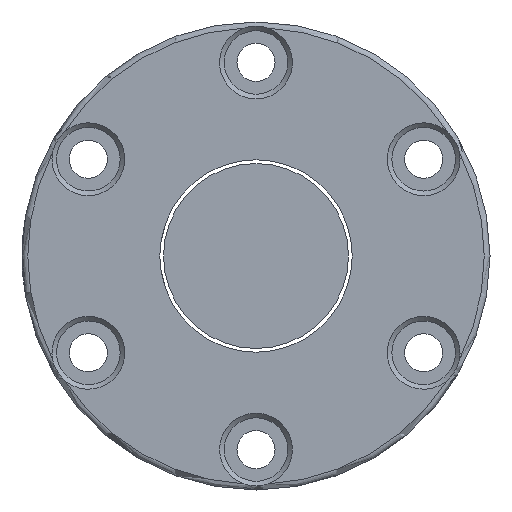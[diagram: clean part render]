
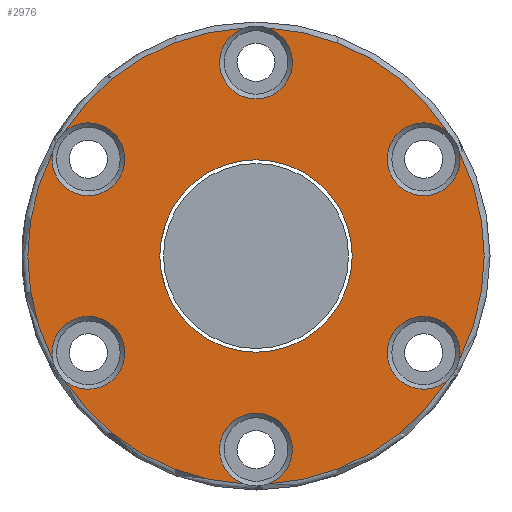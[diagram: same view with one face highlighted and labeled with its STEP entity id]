
A CAD part, left-side view. The second image highlights one B-rep face of the part: STEP entity #2976.
In plain terms, the highlighted planar face has unit normal (-1, 0, 0).
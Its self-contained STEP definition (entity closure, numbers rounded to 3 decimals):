
#3 = EDGE_CURVE ( 'NONE', #83, #2428, #304, .T. ) ;
#11 = ORIENTED_EDGE ( 'NONE', *, *, #486, .T. ) ;
#19 = CIRCLE ( 'NONE', #124, 39.5 ) ;
#24 = CIRCLE ( 'NONE', #1712, 39.5 ) ;
#29 = CARTESIAN_POINT ( 'NONE',  ( -50., -2.085, -39.445 ) ) ;
#47 = VERTEX_POINT ( 'NONE', #2382 ) ;
#48 = VERTEX_POINT ( 'NONE', #1432 ) ;
#60 = CARTESIAN_POINT ( 'NONE',  ( -50., 33.118, -21.528 ) ) ;
#63 = VERTEX_POINT ( 'NONE', #330 ) ;
#83 = VERTEX_POINT ( 'NONE', #2782 ) ;
#124 = AXIS2_PLACEMENT_3D ( 'NONE', #701, #2291, #1803 ) ;
#132 = VERTEX_POINT ( 'NONE', #2311 ) ;
#139 = CARTESIAN_POINT ( 'NONE',  ( -50., 2.085, 39.445 ) ) ;
#166 = VERTEX_POINT ( 'NONE', #409 ) ;
#177 = CIRCLE ( 'NONE', #2677, 16.65 ) ;
#215 = ORIENTED_EDGE ( 'NONE', *, *, #1013, .T. ) ;
#219 = AXIS2_PLACEMENT_3D ( 'NONE', #1515, #427, #2448 ) ;
#234 = EDGE_LOOP ( 'NONE', ( #2367 ) ) ;
#275 = ORIENTED_EDGE ( 'NONE', *, *, #2570, .T. ) ;
#290 = DIRECTION ( 'NONE',  ( 0., 0., 1. ) ) ;
#304 = CIRCLE ( 'NONE', #1973, 6.3 ) ;
#330 = CARTESIAN_POINT ( 'NONE',  ( -50., -35.203, -17.917 ) ) ;
#339 = DIRECTION ( 'NONE',  ( 0., 0., 1. ) ) ;
#348 = FACE_OUTER_BOUND ( 'NONE', #1664, .T. ) ;
#364 = AXIS2_PLACEMENT_3D ( 'NONE', #726, #1214, #290 ) ;
#383 = DIRECTION ( 'NONE',  ( -1., 0., 0. ) ) ;
#409 = CARTESIAN_POINT ( 'NONE',  ( -50., 0., -16.65 ) ) ;
#427 = DIRECTION ( 'NONE',  ( -1., 0., 0. ) ) ;
#440 = EDGE_CURVE ( 'NONE', #1249, #63, #1334, .T. ) ;
#480 = DIRECTION ( 'NONE',  ( -1., 0., 0. ) ) ;
#486 = EDGE_CURVE ( 'NONE', #1539, #83, #1886, .T. ) ;
#492 = AXIS2_PLACEMENT_3D ( 'NONE', #514, #480, #1165 ) ;
#514 = CARTESIAN_POINT ( 'NONE',  ( -50., 0., 0. ) ) ;
#538 = DIRECTION ( 'NONE',  ( 1., 0., 0. ) ) ;
#571 = DIRECTION ( 'NONE',  ( 0., 0., 1. ) ) ;
#583 = DIRECTION ( 'NONE',  ( 0., 0., 1. ) ) ;
#606 = AXIS2_PLACEMENT_3D ( 'NONE', #1082, #1920, #339 ) ;
#630 = DIRECTION ( 'NONE',  ( 0., 0., 1. ) ) ;
#651 = CARTESIAN_POINT ( 'NONE',  ( -50., -33.118, 21.528 ) ) ;
#694 = CARTESIAN_POINT ( 'NONE',  ( -50., 0., 0. ) ) ;
#701 = CARTESIAN_POINT ( 'NONE',  ( -50., 0., 0. ) ) ;
#714 = DIRECTION ( 'NONE',  ( 0., 0., 1. ) ) ;
#726 = CARTESIAN_POINT ( 'NONE',  ( -50., 0., 0. ) ) ;
#755 = AXIS2_PLACEMENT_3D ( 'NONE', #1993, #1769, #630 ) ;
#778 = DIRECTION ( 'NONE',  ( 0., 0., 1. ) ) ;
#807 = ORIENTED_EDGE ( 'NONE', *, *, #1269, .T. ) ;
#840 = EDGE_CURVE ( 'NONE', #132, #1539, #2623, .T. ) ;
#851 = CIRCLE ( 'NONE', #606, 6.3 ) ;
#887 = AXIS2_PLACEMENT_3D ( 'NONE', #1043, #1685, #571 ) ;
#1006 = ORIENTED_EDGE ( 'NONE', *, *, #3, .T. ) ;
#1013 = EDGE_CURVE ( 'NONE', #1314, #48, #19, .T. ) ;
#1043 = CARTESIAN_POINT ( 'NONE',  ( -50., 29.012, -16.75 ) ) ;
#1082 = CARTESIAN_POINT ( 'NONE',  ( -50., -29.012, 16.75 ) ) ;
#1083 = DIRECTION ( 'NONE',  ( 0., 0., 1. ) ) ;
#1140 = AXIS2_PLACEMENT_3D ( 'NONE', #2610, #1717, #2803 ) ;
#1143 = CARTESIAN_POINT ( 'NONE',  ( -50., 35.203, 17.917 ) ) ;
#1165 = DIRECTION ( 'NONE',  ( 0., 0., 1. ) ) ;
#1175 = EDGE_CURVE ( 'NONE', #2316, #132, #2719, .T. ) ;
#1214 = DIRECTION ( 'NONE',  ( -1., 0., 0. ) ) ;
#1249 = VERTEX_POINT ( 'NONE', #2598 ) ;
#1269 = EDGE_CURVE ( 'NONE', #1446, #1249, #1386, .T. ) ;
#1285 = CARTESIAN_POINT ( 'NONE',  ( -50., 40.5, 0. ) ) ;
#1314 = VERTEX_POINT ( 'NONE', #60 ) ;
#1334 = CIRCLE ( 'NONE', #1140, 6.3 ) ;
#1349 = DIRECTION ( 'NONE',  ( 0., 0., 1. ) ) ;
#1380 = AXIS2_PLACEMENT_3D ( 'NONE', #2923, #1780, #1349 ) ;
#1386 = CIRCLE ( 'NONE', #2815, 39.5 ) ;
#1410 = VERTEX_POINT ( 'NONE', #2789 ) ;
#1415 = ORIENTED_EDGE ( 'NONE', *, *, #840, .T. ) ;
#1432 = CARTESIAN_POINT ( 'NONE',  ( -50., 2.085, -39.445 ) ) ;
#1446 = VERTEX_POINT ( 'NONE', #29 ) ;
#1459 = ORIENTED_EDGE ( 'NONE', *, *, #1792, .T. ) ;
#1483 = FACE_BOUND ( 'NONE', #234, .T. ) ;
#1512 = CIRCLE ( 'NONE', #887, 6.3 ) ;
#1515 = CARTESIAN_POINT ( 'NONE',  ( -50., 0., 0. ) ) ;
#1539 = VERTEX_POINT ( 'NONE', #139 ) ;
#1602 = CIRCLE ( 'NONE', #492, 39.5 ) ;
#1613 = DIRECTION ( 'NONE',  ( 0., 0., -1. ) ) ;
#1664 = EDGE_LOOP ( 'NONE', ( #1415, #11, #1006, #2938, #2089, #215, #1459, #807, #2585, #275, #2337, #2556 ) ) ;
#1685 = DIRECTION ( 'NONE',  ( 1., 0., 0. ) ) ;
#1712 = AXIS2_PLACEMENT_3D ( 'NONE', #2437, #383, #1083 ) ;
#1717 = DIRECTION ( 'NONE',  ( 1., 0., 0. ) ) ;
#1769 = DIRECTION ( 'NONE',  ( 1., 0., 0. ) ) ;
#1780 = DIRECTION ( 'NONE',  ( 1., 0., 0. ) ) ;
#1792 = EDGE_CURVE ( 'NONE', #48, #1446, #2042, .T. ) ;
#1803 = DIRECTION ( 'NONE',  ( 0., 0., 1. ) ) ;
#1886 = CIRCLE ( 'NONE', #219, 39.5 ) ;
#1920 = DIRECTION ( 'NONE',  ( 1., 0., 0. ) ) ;
#1973 = AXIS2_PLACEMENT_3D ( 'NONE', #2113, #538, #778 ) ;
#1993 = CARTESIAN_POINT ( 'NONE',  ( -50., 0., -33.5 ) ) ;
#2010 = EDGE_CURVE ( 'NONE', #166, #166, #177, .T. ) ;
#2042 = CIRCLE ( 'NONE', #755, 6.3 ) ;
#2067 = EDGE_CURVE ( 'NONE', #1410, #2316, #851, .T. ) ;
#2089 = ORIENTED_EDGE ( 'NONE', *, *, #2944, .T. ) ;
#2113 = CARTESIAN_POINT ( 'NONE',  ( -50., 29.012, 16.75 ) ) ;
#2134 = CARTESIAN_POINT ( 'NONE',  ( -50., 0., 0. ) ) ;
#2174 = PLANE ( 'NONE',  #2515 ) ;
#2291 = DIRECTION ( 'NONE',  ( -1., 0., 0. ) ) ;
#2311 = CARTESIAN_POINT ( 'NONE',  ( -50., -2.085, 39.445 ) ) ;
#2316 = VERTEX_POINT ( 'NONE', #651 ) ;
#2337 = ORIENTED_EDGE ( 'NONE', *, *, #2067, .T. ) ;
#2342 = DIRECTION ( 'NONE',  ( 1., 0., 0. ) ) ;
#2348 = DIRECTION ( 'NONE',  ( -1., 0., 0. ) ) ;
#2367 = ORIENTED_EDGE ( 'NONE', *, *, #2010, .T. ) ;
#2382 = CARTESIAN_POINT ( 'NONE',  ( -50., 35.203, -17.917 ) ) ;
#2428 = VERTEX_POINT ( 'NONE', #1143 ) ;
#2437 = CARTESIAN_POINT ( 'NONE',  ( -50., 0., 0. ) ) ;
#2448 = DIRECTION ( 'NONE',  ( 0., 0., 1. ) ) ;
#2515 = AXIS2_PLACEMENT_3D ( 'NONE', #1285, #2859, #583 ) ;
#2556 = ORIENTED_EDGE ( 'NONE', *, *, #1175, .T. ) ;
#2570 = EDGE_CURVE ( 'NONE', #63, #1410, #24, .T. ) ;
#2585 = ORIENTED_EDGE ( 'NONE', *, *, #440, .T. ) ;
#2598 = CARTESIAN_POINT ( 'NONE',  ( -50., -33.118, -21.528 ) ) ;
#2610 = CARTESIAN_POINT ( 'NONE',  ( -50., -29.012, -16.75 ) ) ;
#2623 = CIRCLE ( 'NONE', #1380, 6.3 ) ;
#2677 = AXIS2_PLACEMENT_3D ( 'NONE', #694, #2342, #1613 ) ;
#2719 = CIRCLE ( 'NONE', #364, 39.5 ) ;
#2757 = EDGE_CURVE ( 'NONE', #2428, #47, #1602, .T. ) ;
#2782 = CARTESIAN_POINT ( 'NONE',  ( -50., 33.118, 21.528 ) ) ;
#2789 = CARTESIAN_POINT ( 'NONE',  ( -50., -35.203, 17.917 ) ) ;
#2803 = DIRECTION ( 'NONE',  ( 0., 0., 1. ) ) ;
#2815 = AXIS2_PLACEMENT_3D ( 'NONE', #2134, #2348, #714 ) ;
#2859 = DIRECTION ( 'NONE',  ( -1., 0., 0. ) ) ;
#2923 = CARTESIAN_POINT ( 'NONE',  ( -50., 0., 33.5 ) ) ;
#2938 = ORIENTED_EDGE ( 'NONE', *, *, #2757, .T. ) ;
#2944 = EDGE_CURVE ( 'NONE', #47, #1314, #1512, .T. ) ;
#2976 = ADVANCED_FACE ( 'NONE', ( #348, #1483 ), #2174, .T. ) ;
